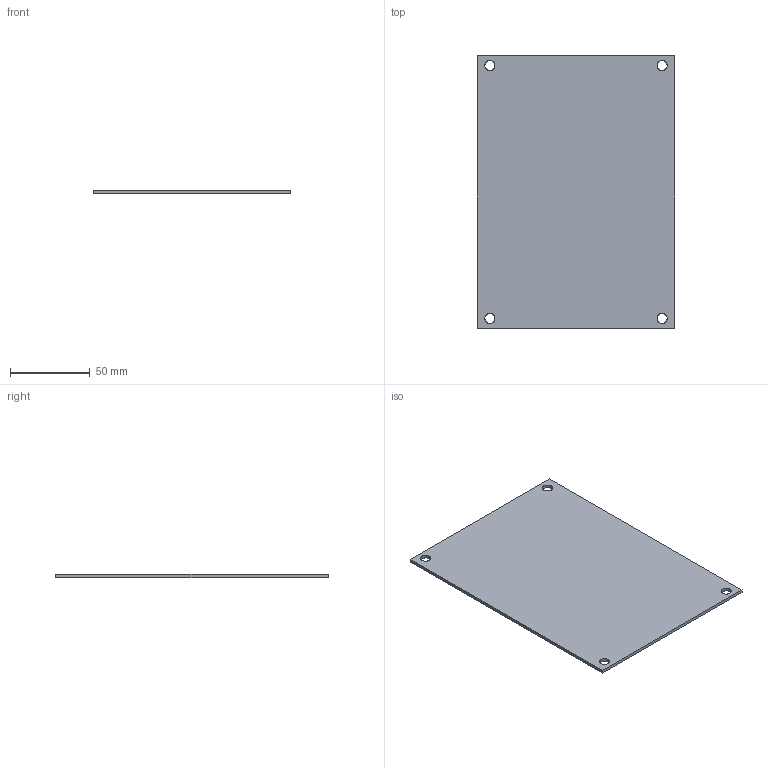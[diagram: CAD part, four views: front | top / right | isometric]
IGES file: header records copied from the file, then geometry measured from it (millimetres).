
Start section: SolidWorks IGES file using analytic representation for surfaces
Global section: file name: G:\3DRAW\ARCA\3DCAM\Solidpart\FIBOX_ABP86.IGS; native system: SolidWorks 2009; preprocessor: SolidWorks 2009; author: KennethW; date: 100308.094903; units: millimetre
Bounding box: 124 x 171 x 2 mm (x, y, z)
Surface area: 43494.2 mm2 (no closed solid volume)
Topology: 0 solids, 0 shells, 14 faces, 312 edges, 312 vertices
Faces by surface type: revolution 8, bspline 6
